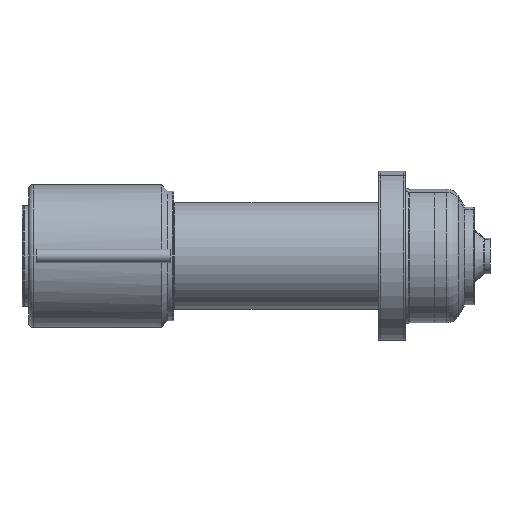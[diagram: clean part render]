
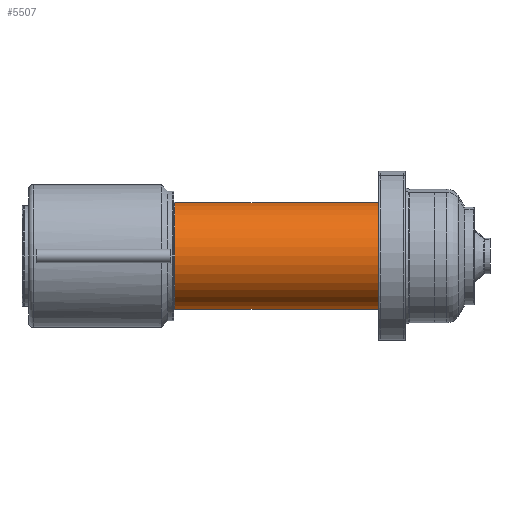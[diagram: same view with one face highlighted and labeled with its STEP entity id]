
A CAD part, front view. The second image highlights one B-rep face of the part: STEP entity #5507.
In plain terms, the highlighted cylindrical face has radius 24 mm (diameter 48 mm), a partial arc.
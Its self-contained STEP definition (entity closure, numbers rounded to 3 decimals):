
#59 = CARTESIAN_POINT ( 'NONE',  ( 68.5, 0., -24. ) ) ;
#279 = VERTEX_POINT ( 'NONE', #8777 ) ;
#710 = EDGE_CURVE ( 'NONE', #9885, #3192, #3631, .T. ) ;
#786 = FACE_OUTER_BOUND ( 'NONE', #5864, .T. ) ;
#1146 = EDGE_CURVE ( 'NONE', #3192, #279, #2309, .T. ) ;
#1227 = CARTESIAN_POINT ( 'NONE',  ( -14.872, 0., -24. ) ) ;
#1580 = DIRECTION ( 'NONE',  ( 1., 0., 0. ) ) ;
#1993 = AXIS2_PLACEMENT_3D ( 'NONE', #2175, #2946, #9935 ) ;
#2005 = CARTESIAN_POINT ( 'NONE',  ( 68.5, 0., 0. ) ) ;
#2175 = CARTESIAN_POINT ( 'NONE',  ( -14.872, 0., 0. ) ) ;
#2238 = VECTOR ( 'NONE', #4615, 1000. ) ;
#2280 = CARTESIAN_POINT ( 'NONE',  ( -14.872, 0., 24. ) ) ;
#2309 = CIRCLE ( 'NONE', #9755, 24. ) ;
#2791 = DIRECTION ( 'NONE',  ( 0., 0., 1. ) ) ;
#2946 = DIRECTION ( 'NONE',  ( -1., 0., 0. ) ) ;
#3192 = VERTEX_POINT ( 'NONE', #59 ) ;
#3631 = LINE ( 'NONE', #1227, #7543 ) ;
#3780 = CARTESIAN_POINT ( 'NONE',  ( 160., 0., 24. ) ) ;
#4496 = CARTESIAN_POINT ( 'NONE',  ( 160., 0., -24. ) ) ;
#4615 = DIRECTION ( 'NONE',  ( -1., 0., 0. ) ) ;
#5419 = ORIENTED_EDGE ( 'NONE', *, *, #710, .F. ) ;
#5507 = ADVANCED_FACE ( 'NONE', ( #786 ), #8830, .T. ) ;
#5660 = ORIENTED_EDGE ( 'NONE', *, *, #9926, .T. ) ;
#5864 = EDGE_LOOP ( 'NONE', ( #5419, #7496, #5660, #7751 ) ) ;
#5878 = CIRCLE ( 'NONE', #10103, 24. ) ;
#6223 = CARTESIAN_POINT ( 'NONE',  ( 160., 0., 0. ) ) ;
#6363 = LINE ( 'NONE', #2280, #2238 ) ;
#7003 = DIRECTION ( 'NONE',  ( 0., 1., 0. ) ) ;
#7174 = VERTEX_POINT ( 'NONE', #3780 ) ;
#7439 = DIRECTION ( 'NONE',  ( -1., 0., 0. ) ) ;
#7496 = ORIENTED_EDGE ( 'NONE', *, *, #9473, .F. ) ;
#7543 = VECTOR ( 'NONE', #9020, 1000. ) ;
#7751 = ORIENTED_EDGE ( 'NONE', *, *, #1146, .F. ) ;
#8777 = CARTESIAN_POINT ( 'NONE',  ( 68.5, 0., 24. ) ) ;
#8830 = CYLINDRICAL_SURFACE ( 'NONE', #1993, 24. ) ;
#9020 = DIRECTION ( 'NONE',  ( -1., 0., 0. ) ) ;
#9473 = EDGE_CURVE ( 'NONE', #7174, #9885, #5878, .T. ) ;
#9755 = AXIS2_PLACEMENT_3D ( 'NONE', #2005, #7439, #2791 ) ;
#9885 = VERTEX_POINT ( 'NONE', #4496 ) ;
#9926 = EDGE_CURVE ( 'NONE', #7174, #279, #6363, .T. ) ;
#9935 = DIRECTION ( 'NONE',  ( 0., 0., 1. ) ) ;
#10103 = AXIS2_PLACEMENT_3D ( 'NONE', #6223, #1580, #7003 ) ;
